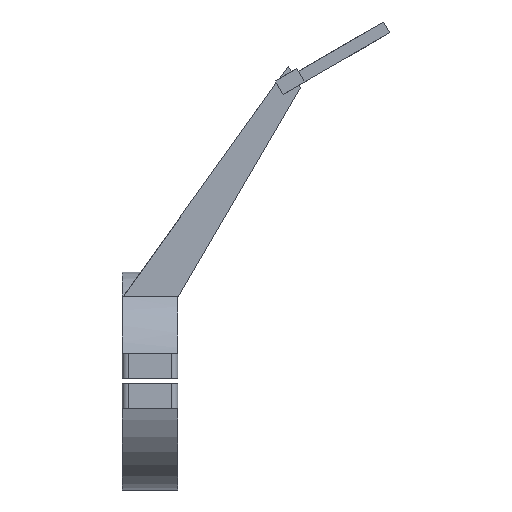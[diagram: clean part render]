
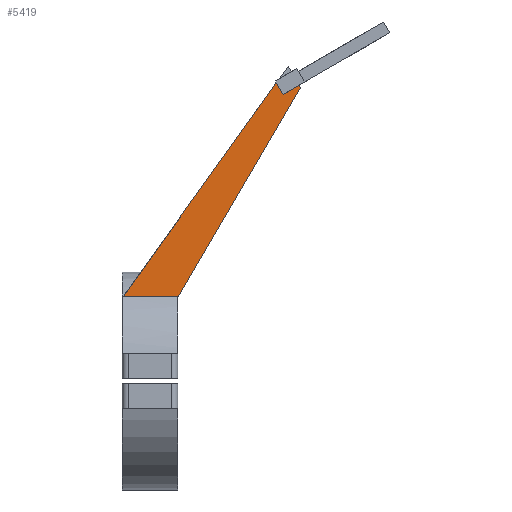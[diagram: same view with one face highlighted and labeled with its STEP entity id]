
A CAD part, front view. The second image highlights one B-rep face of the part: STEP entity #5419.
In plain terms, the highlighted planar face has unit normal (0, -1, 0).
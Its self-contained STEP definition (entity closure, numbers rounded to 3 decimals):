
#55 = CYLINDRICAL_SURFACE('',#56,35.3);
#56 = AXIS2_PLACEMENT_3D('',#57,#58,#59);
#57 = CARTESIAN_POINT('',(-54.,0.,0.));
#58 = DIRECTION('',(-1.,-0.,-0.));
#59 = DIRECTION('',(0.,1.,0.));
#329 = PLANE('',#330);
#330 = AXIS2_PLACEMENT_3D('',#331,#332,#333);
#331 = CARTESIAN_POINT('',(-36.,0.,0.)
  );
#332 = DIRECTION('',(1.,0.,0.));
#333 = DIRECTION('',(-0.,0.,1.));
#478 = VERTEX_POINT('',#479);
#479 = CARTESIAN_POINT('',(-53.565,-22.,27.606));
#497 = PLANE('',#498);
#498 = AXIS2_PLACEMENT_3D('',#499,#500,#501);
#499 = CARTESIAN_POINT('',(-0.124,-18.,102.098));
#500 = DIRECTION('',(0.813,0.,-0.583));
#501 = DIRECTION('',(-0.583,0.,-0.813));
#509 = EDGE_CURVE('',#510,#478,#512,.T.);
#510 = VERTEX_POINT('',#511);
#511 = CARTESIAN_POINT('',(-36.,-22.,27.606));
#512 = SURFACE_CURVE('',#513,(#517,#523),.PCURVE_S1.);
#513 = LINE('',#514,#515);
#514 = CARTESIAN_POINT('',(-54.,-22.,27.606));
#515 = VECTOR('',#516,1.);
#516 = DIRECTION('',(-1.,-0.,-0.));
#517 = PCURVE('',#55,#518);
#518 = DEFINITIONAL_REPRESENTATION('',(#519),#522);
#519 = B_SPLINE_CURVE_WITH_KNOTS('',1,(#520,#521),.UNSPECIFIED.,.F.,.F.,
  (2,2),(-18.,0.),.PIECEWISE_BEZIER_KNOTS.);
#520 = CARTESIAN_POINT('',(-2.244,-18.));
#521 = CARTESIAN_POINT('',(-2.244,0.));
#522 = ( GEOMETRIC_REPRESENTATION_CONTEXT(2) 
PARAMETRIC_REPRESENTATION_CONTEXT() REPRESENTATION_CONTEXT('2D SPACE',''
  ) );
#523 = PCURVE('',#524,#529);
#524 = PLANE('',#525);
#525 = AXIS2_PLACEMENT_3D('',#526,#527,#528);
#526 = CARTESIAN_POINT('',(-23.124,-22.,61.121));
#527 = DIRECTION('',(-0.,-1.,-0.));
#528 = DIRECTION('',(0.,0.,-1.));
#529 = DEFINITIONAL_REPRESENTATION('',(#530),#533);
#530 = B_SPLINE_CURVE_WITH_KNOTS('',1,(#531,#532),.UNSPECIFIED.,.F.,.F.,
  (2,2),(-18.,0.),.PIECEWISE_BEZIER_KNOTS.);
#531 = CARTESIAN_POINT('',(33.515,-12.876));
#532 = CARTESIAN_POINT('',(33.515,-30.876));
#533 = ( GEOMETRIC_REPRESENTATION_CONTEXT(2) 
PARAMETRIC_REPRESENTATION_CONTEXT() REPRESENTATION_CONTEXT('2D SPACE',''
  ) );
#1663 = PLANE('',#1664);
#1664 = AXIS2_PLACEMENT_3D('',#1665,#1666,#1667);
#1665 = CARTESIAN_POINT('',(15.5,0.,103.036));
#1666 = DIRECTION('',(0.5,0.,-0.866));
#1667 = DIRECTION('',(0.866,0.,0.5));
#2063 = VERTEX_POINT('',#2064);
#2064 = CARTESIAN_POINT('',(-1.821,-22.,93.036));
#2078 = PLANE('',#2079);
#2079 = AXIS2_PLACEMENT_3D('',#2080,#2081,#2082);
#2080 = CARTESIAN_POINT('',(-3.821,-20.,96.5));
#2081 = DIRECTION('',(0.866,0.,0.5));
#2082 = DIRECTION('',(0.,1.,0.));
#2090 = EDGE_CURVE('',#2091,#2063,#2093,.T.);
#2091 = VERTEX_POINT('',#2092);
#2092 = CARTESIAN_POINT('',(3.376,-22.,96.036));
#2093 = SURFACE_CURVE('',#2094,(#2098,#2104),.PCURVE_S1.);
#2094 = LINE('',#2095,#2096);
#2095 = CARTESIAN_POINT('',(-8.059,-22.,89.434));
#2096 = VECTOR('',#2097,1.);
#2097 = DIRECTION('',(-0.866,0.,-0.5));
#2098 = PCURVE('',#1663,#2099);
#2099 = DEFINITIONAL_REPRESENTATION('',(#2100),#2103);
#2100 = B_SPLINE_CURVE_WITH_KNOTS('',1,(#2101,#2102),.UNSPECIFIED.,.F.,
  .F.,(2,2),(-13.781,-7.204),.PIECEWISE_BEZIER_KNOTS.);
#2101 = CARTESIAN_POINT('',(-13.423,22.));
#2102 = CARTESIAN_POINT('',(-20.,22.));
#2103 = ( GEOMETRIC_REPRESENTATION_CONTEXT(2) 
PARAMETRIC_REPRESENTATION_CONTEXT() REPRESENTATION_CONTEXT('2D SPACE',''
  ) );
#2104 = PCURVE('',#524,#2105);
#2105 = DEFINITIONAL_REPRESENTATION('',(#2106),#2109);
#2106 = B_SPLINE_CURVE_WITH_KNOTS('',1,(#2107,#2108),.UNSPECIFIED.,.F.,
  .F.,(2,2),(-13.781,-7.204),.PIECEWISE_BEZIER_KNOTS.);
#2107 = CARTESIAN_POINT('',(-35.204,27.));
#2108 = CARTESIAN_POINT('',(-31.915,21.304));
#2109 = ( GEOMETRIC_REPRESENTATION_CONTEXT(2) 
PARAMETRIC_REPRESENTATION_CONTEXT() REPRESENTATION_CONTEXT('2D SPACE',''
  ) );
#2126 = PLANE('',#2127);
#2127 = AXIS2_PLACEMENT_3D('',#2128,#2129,#2130);
#2128 = CARTESIAN_POINT('',(3.876,-18.,95.17));
#2129 = DIRECTION('',(-0.866,-0.,-0.5));
#2130 = DIRECTION('',(-0.5,0.,0.866));
#4968 = EDGE_CURVE('',#4969,#2063,#4971,.T.);
#4969 = VERTEX_POINT('',#4970);
#4970 = CARTESIAN_POINT('',(-3.963,-22.,96.747));
#4971 = SURFACE_CURVE('',#4972,(#4976,#4982),.PCURVE_S1.);
#4972 = LINE('',#4973,#4974);
#4973 = CARTESIAN_POINT('',(1.426,-22.,87.412));
#4974 = VECTOR('',#4975,1.);
#4975 = DIRECTION('',(0.5,0.,-0.866));
#4976 = PCURVE('',#2078,#4977);
#4977 = DEFINITIONAL_REPRESENTATION('',(#4978),#4981);
#4978 = B_SPLINE_CURVE_WITH_KNOTS('',1,(#4979,#4980),.UNSPECIFIED.,.F.,
  .F.,(2,2),(-11.494,-6.494),.PIECEWISE_BEZIER_KNOTS.);
#4979 = CARTESIAN_POINT('',(-2.,1.));
#4980 = CARTESIAN_POINT('',(-2.,-4.));
#4981 = ( GEOMETRIC_REPRESENTATION_CONTEXT(2) 
PARAMETRIC_REPRESENTATION_CONTEXT() REPRESENTATION_CONTEXT('2D SPACE',''
  ) );
#4982 = PCURVE('',#524,#4983);
#4983 = DEFINITIONAL_REPRESENTATION('',(#4984),#4987);
#4984 = B_SPLINE_CURVE_WITH_KNOTS('',1,(#4985,#4986),.UNSPECIFIED.,.F.,
  .F.,(2,2),(-11.494,-6.494),.PIECEWISE_BEZIER_KNOTS.);
#4985 = CARTESIAN_POINT('',(-36.245,18.804));
#4986 = CARTESIAN_POINT('',(-31.915,21.304));
#4987 = ( GEOMETRIC_REPRESENTATION_CONTEXT(2) 
PARAMETRIC_REPRESENTATION_CONTEXT() REPRESENTATION_CONTEXT('2D SPACE',''
  ) );
#5060 = VERTEX_POINT('',#5061);
#5061 = CARTESIAN_POINT('',(3.876,-22.,95.17));
#5075 = PLANE('',#5076);
#5076 = AXIS2_PLACEMENT_3D('',#5077,#5078,#5079);
#5077 = CARTESIAN_POINT('',(-36.,-18.,27.));
#5078 = DIRECTION('',(-0.863,0.,0.505));
#5079 = DIRECTION('',(0.505,0.,0.863));
#5087 = EDGE_CURVE('',#5060,#2091,#5088,.T.);
#5088 = SURFACE_CURVE('',#5089,(#5093,#5100),.PCURVE_S1.);
#5089 = LINE('',#5090,#5091);
#5090 = CARTESIAN_POINT('',(3.876,-22.,95.17));
#5091 = VECTOR('',#5092,1.);
#5092 = DIRECTION('',(-0.5,0.,0.866));
#5093 = PCURVE('',#2126,#5094);
#5094 = DEFINITIONAL_REPRESENTATION('',(#5095),#5099);
#5095 = LINE('',#5096,#5097);
#5096 = CARTESIAN_POINT('',(0.,-4.));
#5097 = VECTOR('',#5098,1.);
#5098 = DIRECTION('',(1.,0.));
#5099 = ( GEOMETRIC_REPRESENTATION_CONTEXT(2) 
PARAMETRIC_REPRESENTATION_CONTEXT() REPRESENTATION_CONTEXT('2D SPACE',''
  ) );
#5100 = PCURVE('',#524,#5101);
#5101 = DEFINITIONAL_REPRESENTATION('',(#5102),#5106);
#5102 = LINE('',#5103,#5104);
#5103 = CARTESIAN_POINT('',(-34.049,27.));
#5104 = VECTOR('',#5105,1.);
#5105 = DIRECTION('',(-0.866,-0.5));
#5106 = ( GEOMETRIC_REPRESENTATION_CONTEXT(2) 
PARAMETRIC_REPRESENTATION_CONTEXT() REPRESENTATION_CONTEXT('2D SPACE',''
  ) );
#5115 = VERTEX_POINT('',#5116);
#5116 = CARTESIAN_POINT('',(-36.,-22.,27.));
#5137 = EDGE_CURVE('',#5115,#5060,#5138,.T.);
#5138 = SURFACE_CURVE('',#5139,(#5143,#5150),.PCURVE_S1.);
#5139 = LINE('',#5140,#5141);
#5140 = CARTESIAN_POINT('',(-36.,-22.,27.));
#5141 = VECTOR('',#5142,1.);
#5142 = DIRECTION('',(0.505,0.,0.863));
#5143 = PCURVE('',#5075,#5144);
#5144 = DEFINITIONAL_REPRESENTATION('',(#5145),#5149);
#5145 = LINE('',#5146,#5147);
#5146 = CARTESIAN_POINT('',(0.,-4.));
#5147 = VECTOR('',#5148,1.);
#5148 = DIRECTION('',(1.,0.));
#5149 = ( GEOMETRIC_REPRESENTATION_CONTEXT(2) 
PARAMETRIC_REPRESENTATION_CONTEXT() REPRESENTATION_CONTEXT('2D SPACE',''
  ) );
#5150 = PCURVE('',#524,#5151);
#5151 = DEFINITIONAL_REPRESENTATION('',(#5152),#5156);
#5152 = LINE('',#5153,#5154);
#5153 = CARTESIAN_POINT('',(34.121,-12.876));
#5154 = VECTOR('',#5155,1.);
#5155 = DIRECTION('',(-0.863,0.505));
#5156 = ( GEOMETRIC_REPRESENTATION_CONTEXT(2) 
PARAMETRIC_REPRESENTATION_CONTEXT() REPRESENTATION_CONTEXT('2D SPACE',''
  ) );
#5398 = EDGE_CURVE('',#4969,#478,#5399,.T.);
#5399 = SURFACE_CURVE('',#5400,(#5404,#5411),.PCURVE_S1.);
#5400 = LINE('',#5401,#5402);
#5401 = CARTESIAN_POINT('',(-0.124,-22.,102.098));
#5402 = VECTOR('',#5403,1.);
#5403 = DIRECTION('',(-0.583,0.,-0.813));
#5404 = PCURVE('',#497,#5405);
#5405 = DEFINITIONAL_REPRESENTATION('',(#5406),#5410);
#5406 = LINE('',#5407,#5408);
#5407 = CARTESIAN_POINT('',(-0.,-4.));
#5408 = VECTOR('',#5409,1.);
#5409 = DIRECTION('',(1.,0.));
#5410 = ( GEOMETRIC_REPRESENTATION_CONTEXT(2) 
PARAMETRIC_REPRESENTATION_CONTEXT() REPRESENTATION_CONTEXT('2D SPACE',''
  ) );
#5411 = PCURVE('',#524,#5412);
#5412 = DEFINITIONAL_REPRESENTATION('',(#5413),#5417);
#5413 = LINE('',#5414,#5415);
#5414 = CARTESIAN_POINT('',(-40.978,23.));
#5415 = VECTOR('',#5416,1.);
#5416 = DIRECTION('',(0.813,-0.583));
#5417 = ( GEOMETRIC_REPRESENTATION_CONTEXT(2) 
PARAMETRIC_REPRESENTATION_CONTEXT() REPRESENTATION_CONTEXT('2D SPACE',''
  ) );
#5419 = ADVANCED_FACE('',(#5420),#524,.T.);
#5420 = FACE_BOUND('',#5421,.T.);
#5421 = EDGE_LOOP('',(#5422,#5441,#5442,#5443,#5444,#5445,#5446));
#5422 = ORIENTED_EDGE('',*,*,#5423,.T.);
#5423 = EDGE_CURVE('',#510,#5115,#5424,.T.);
#5424 = SURFACE_CURVE('',#5425,(#5429,#5435),.PCURVE_S1.);
#5425 = LINE('',#5426,#5427);
#5426 = CARTESIAN_POINT('',(-36.,-22.,30.56));
#5427 = VECTOR('',#5428,1.);
#5428 = DIRECTION('',(0.,0.,-1.));
#5429 = PCURVE('',#524,#5430);
#5430 = DEFINITIONAL_REPRESENTATION('',(#5431),#5434);
#5431 = B_SPLINE_CURVE_WITH_KNOTS('',1,(#5432,#5433),.UNSPECIFIED.,.F.,
  .F.,(2,2),(-4.74,3.56),.PIECEWISE_BEZIER_KNOTS.);
#5432 = CARTESIAN_POINT('',(25.821,-12.876));
#5433 = CARTESIAN_POINT('',(34.121,-12.876));
#5434 = ( GEOMETRIC_REPRESENTATION_CONTEXT(2) 
PARAMETRIC_REPRESENTATION_CONTEXT() REPRESENTATION_CONTEXT('2D SPACE',''
  ) );
#5435 = PCURVE('',#329,#5436);
#5436 = DEFINITIONAL_REPRESENTATION('',(#5437),#5440);
#5437 = B_SPLINE_CURVE_WITH_KNOTS('',1,(#5438,#5439),.UNSPECIFIED.,.F.,
  .F.,(2,2),(-4.74,3.56),.PIECEWISE_BEZIER_KNOTS.);
#5438 = CARTESIAN_POINT('',(35.3,22.));
#5439 = CARTESIAN_POINT('',(27.,22.));
#5440 = ( GEOMETRIC_REPRESENTATION_CONTEXT(2) 
PARAMETRIC_REPRESENTATION_CONTEXT() REPRESENTATION_CONTEXT('2D SPACE',''
  ) );
#5441 = ORIENTED_EDGE('',*,*,#5137,.T.);
#5442 = ORIENTED_EDGE('',*,*,#5087,.T.);
#5443 = ORIENTED_EDGE('',*,*,#2090,.T.);
#5444 = ORIENTED_EDGE('',*,*,#4968,.F.);
#5445 = ORIENTED_EDGE('',*,*,#5398,.T.);
#5446 = ORIENTED_EDGE('',*,*,#509,.F.);
